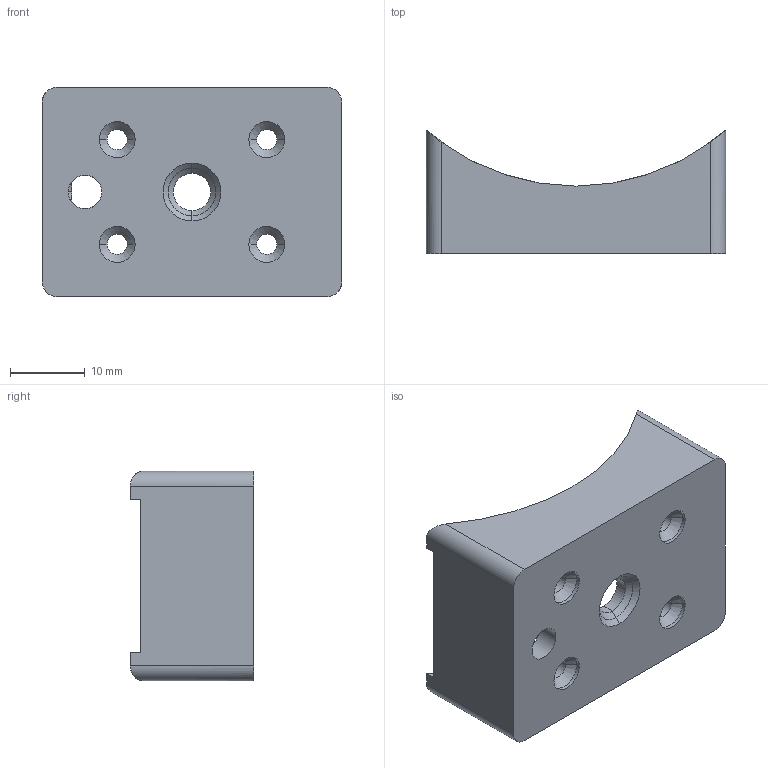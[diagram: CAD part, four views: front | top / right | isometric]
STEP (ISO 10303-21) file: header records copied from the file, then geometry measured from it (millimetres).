
FILE_DESCRIPTION(/* description */ ('VariCAD 2008 3.04 AP-203'),/* implementation_level */ '2;1');
FILE_NAME(/* name */ '0353-18-09',/* time_stamp */ '2009-04-23T18:36:53-06:00',/* author */ (''),/* organization */ (''),/* preprocessor_version */ 'ST-DEVELOPER v12',/* originating_system */ 'VariCAD 2008 3.04; kernel version (20080715)',/* authorisation */ '');
FILE_SCHEMA (('CONFIG_CONTROL_DESIGN'));
Length unit declared in the file: millimetre
Products named in the file (1): Part
Bounding box: 40 x 16.47 x 28 mm (x, y, z)
Volume: 6428.7 mm3; surface area: 5093.7 mm2
Topology: 2 solids, 2 shells, 69 faces, 176 edges, 109 vertices
Faces by surface type: cylinder 40, plane 15, cone 14
Entity records: 2246 total; most frequent: CARTESIAN_POINT 463, DIRECTION 386, ORIENTED_EDGE 352, EDGE_CURVE 176, AXIS2_PLACEMENT_3D 152, VERTEX_POINT 109, LINE 82, VECTOR 82
